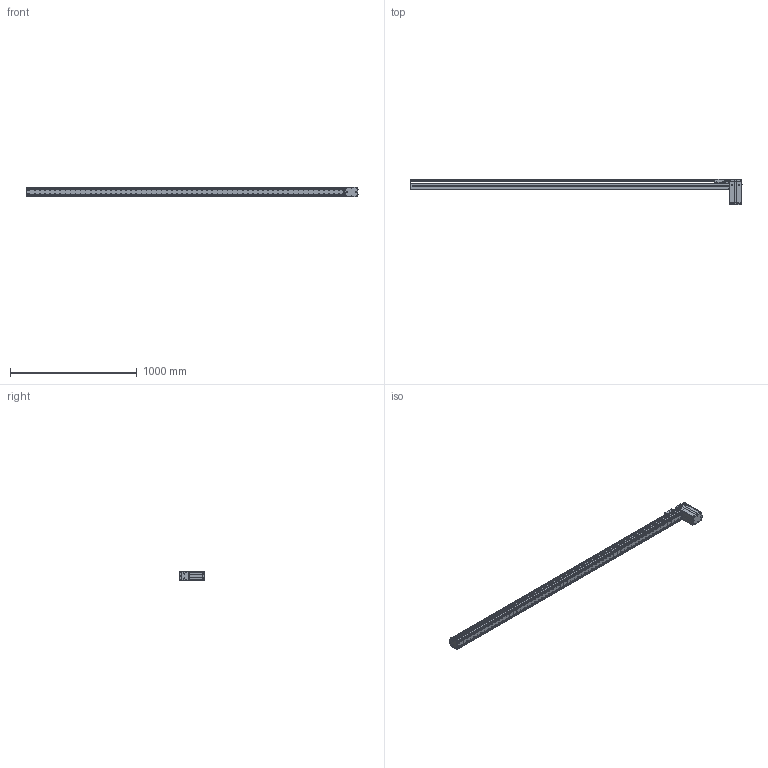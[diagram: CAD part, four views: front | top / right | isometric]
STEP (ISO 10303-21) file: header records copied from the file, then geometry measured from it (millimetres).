
FILE_DESCRIPTION((''),'2;1');
FILE_NAME('BE10_-BU-S_N-P5_IGS_PRT','2017-06-18T',(' '),(''),'PRO/ENGINEER BY PARAMETRIC TECHNOLOGY CORPORATION, 2015030','PRO/ENGINEER BY PARAMETRIC TECHNOLOGY CORPORATION, 2015030','');
FILE_SCHEMA(('CONFIG_CONTROL_DESIGN'));
Products named in the file (1): BE10_-BU-S_N-P5_IGS_PRT
Bounding box: 2620.8 x 202.72 x 78 mm (x, y, z)
Volume: 3307601.9 mm3; surface area: 2338430.9 mm2
Topology: 5 solids, 203 shells, 2423 faces, 6669 edges, 4457 vertices
Faces by surface type: cylinder 1183, plane 1081, cone 103, sphere 28, torus 25, bspline 3
Entity records: 79704 total; most frequent: CARTESIAN_POINT 16333, DIRECTION 13528, ORIENTED_EDGE 12470, EDGE_CURVE 6613, AXIS2_PLACEMENT_3D 4997, VERTEX_POINT 4456, VECTOR 3534, LINE 3534
